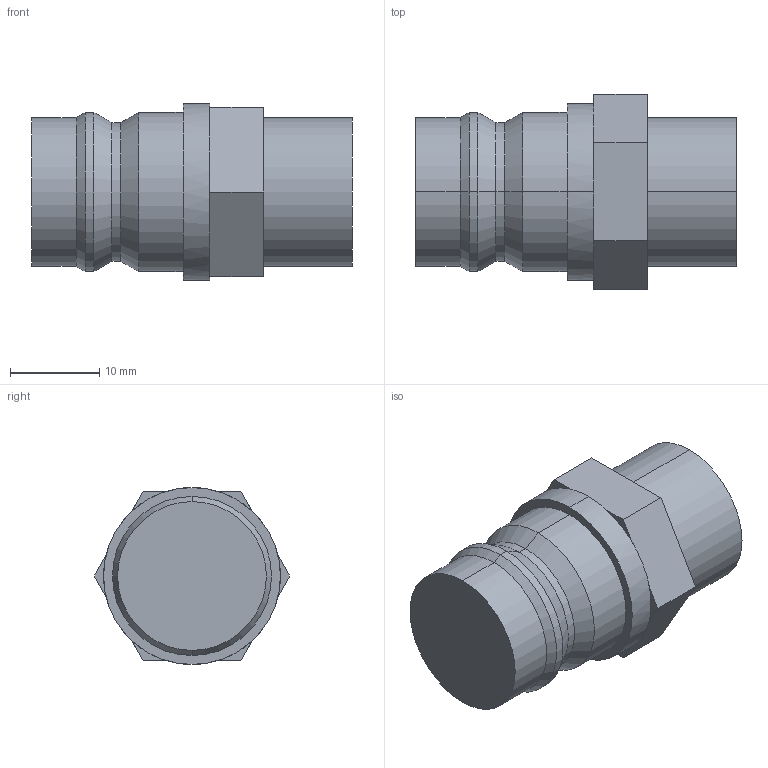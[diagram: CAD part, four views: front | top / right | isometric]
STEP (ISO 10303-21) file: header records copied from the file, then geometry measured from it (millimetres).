
FILE_DESCRIPTION (( 'STEP AP214' ), '1' );
FILE_NAME ('BR601.06 ERB 17.STEP', '2020-12-02T13:49:55', ( '' ), ( '' ), 'SwSTEP 2.0', 'SolidWorks 2018', '' );
FILE_SCHEMA (( 'AUTOMOTIVE_DESIGN' ));
Length unit declared in the file: millimetre
Products named in the file (1): BR601.06 ERB 17
Bounding box: 36 x 21.94 x 19.85 mm (x, y, z)
Volume: 8894.4 mm3; surface area: 2673.1 mm2
Topology: 1 solids, 1 shells, 40 faces, 84 edges, 48 vertices
Faces by surface type: plane 22, cylinder 12, cone 6
Entity records: 1086 total; most frequent: DIRECTION 202, CARTESIAN_POINT 173, ORIENTED_EDGE 168, EDGE_CURVE 84, AXIS2_PLACEMENT_3D 77, VECTOR 48, VERTEX_POINT 48, LINE 48
